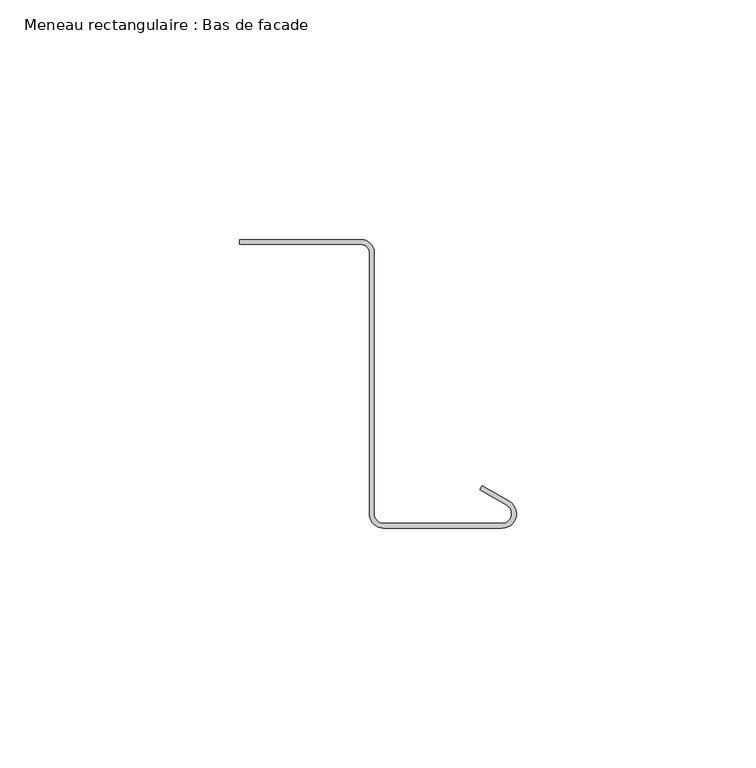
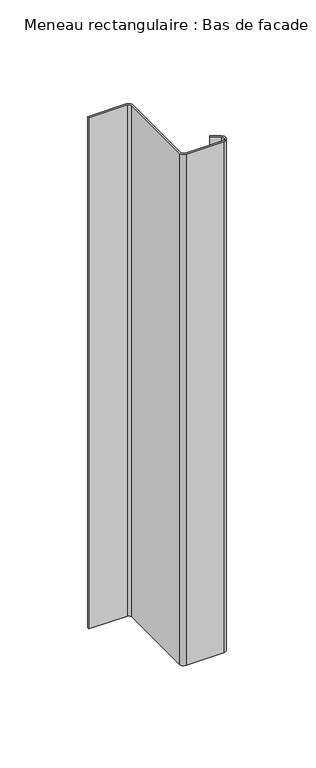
"""IFC4 building model written with IfcOpenShell, lengths in millimetres: member geometry, Meneau rectangulaire : Bas de facade."""

from ifc_helpers import new_model, si_unit, point, frame, frame_2d, origin, place, context, project, spatial, polyline, circle_curve, trimmed, segment, composite_curve, outline, extrude, source, transform, mapped, element, save


def meneau_rectangulaire_bas_de_facade_f80a6144(model_context):
    return source(origin(), model_context, "Body", "SweptSolid", [
        extrude(outline(composite_curve([segment(trimmed(circle_curve(frame_2d((-32.4584179, 0.2088923)), 2.75), [point((-32.4584179, 2.9588923))], [point((-29.7143802, 0.3898824))], False, "CARTESIAN"), True, "CONTINUOUS"), segment(polyline([(-29.7143802, 0.3898824), (-29.7143802, -54.5495817)]), True, "CONTINUOUS"), segment(trimmed(circle_curve(frame_2d((-27.735368, -54.2605998)), 2.0), [point((-29.7143802, -54.5495817))], [point((-27.735368, -56.2605998))], True, "CARTESIAN"), True, "CONTINUOUS"), segment(polyline([(-27.735368, -56.2605998), (-3.0, -56.2605998)]), True, "CONTINUOUS"), segment(trimmed(circle_curve(frame_2d((-3.0, -54.2605998)), 2.0), [point((-3.0, -56.2605998))], [point((-2.0, -52.528549))], True, "CARTESIAN"), True, "CONTINUOUS"), segment(polyline([(-2.0, -52.528549), (-7.6638061, -49.258549), (-7.1638061, -48.3925235), (-1.5, -51.6625235)]), True, "CONTINUOUS"), segment(trimmed(circle_curve(frame_2d((-3.0, -54.2605998)), 3.0), [point((-1.5, -51.6625235))], [point((-3.0, -57.2605998))], False, "CARTESIAN"), True, "CONTINUOUS"), segment(polyline([(-3.0, -57.2605998), (-27.735368, -57.2605998)]), True, "CONTINUOUS"), segment(trimmed(circle_curve(frame_2d((-27.735368, -54.2605998)), 3.0), [point((-27.735368, -57.2605998))], [point((-30.7239521, -54.522067))], False, "CARTESIAN"), True, "CONTINUOUS"), segment(polyline([(-30.7239521, -54.522067), (-30.7239521, 0.4415475)]), True, "CONTINUOUS"), segment(trimmed(circle_curve(frame_2d((-32.4584179, 0.2088923)), 1.75), [point((-30.7239521, 0.4415475))], [point((-32.4584179, 1.9588923))], True, "CARTESIAN"), True, "CONTINUOUS"), segment(polyline([(-32.4584179, 1.9588923), (-57.8548383, 1.9588923), (-57.8548383, 2.9588923), (-32.4584179, 2.9588923)]), True, "CONTINUOUS")], self_intersect=False)), frame((0.0, 0.0, -356.0), z_axis=(0.0, 0.0, 1.0), x_axis=(1.0, 0.0, 0.0)), (0.0, 0.0, 1.0), 356.0),
    ])


if __name__ == "__main__":
    model = new_model("IFC4")
    model_context = context("Model", 3, world=origin())
    ifc_project = project(units=[si_unit("LENGTHUNIT", "METRE", prefix="MILLI")], contexts=[model_context])
    site = spatial("IfcSite", under=ifc_project)
    building = spatial("IfcBuilding", under=site)
    placement = place(None, origin())
    meneau_rectangulaire_bas_de_facade_shape = meneau_rectangulaire_bas_de_facade_f80a6144(model_context)
    element("IfcMember", 1, ObjectType="Meneau rectangulaire : Bas de facade", at=placement, inside=building, context=model_context, shape_type="MappedRepresentation", body=[
        mapped(meneau_rectangulaire_bas_de_facade_shape, transform((0.0, 0.0, 0.0), x_axis=(1.0, 0.0, 0.0), y_axis=(0.0, 1.0, 0.0), z_axis=(0.0, 0.0, 1.0))),
    ])
    save(model, "model.ifc")
